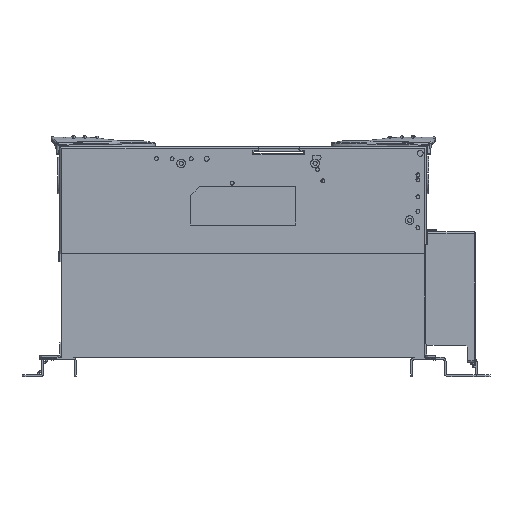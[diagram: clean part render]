
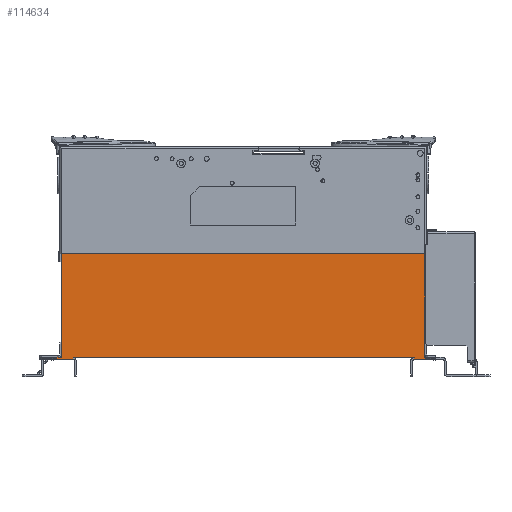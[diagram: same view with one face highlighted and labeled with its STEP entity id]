
A CAD part, left-side view. The second image highlights one B-rep face of the part: STEP entity #114634.
In plain terms, the highlighted planar face has unit normal (-1, 0, 0).
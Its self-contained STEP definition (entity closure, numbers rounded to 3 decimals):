
#28638=DIRECTION('',(0.,1.,0.));
#28639=VECTOR('',#28638,17.2);
#28640=CARTESIAN_POINT('',(-60.,177.8,-62.));
#28641=LINE('',#28640,#28639);
#28642=DIRECTION('',(0.,0.,1.));
#28643=VECTOR('',#28642,2.);
#28644=CARTESIAN_POINT('',(-60.,195.,-62.));
#28645=LINE('',#28644,#28643);
#28646=DIRECTION('',(0.,-1.,0.));
#28647=VECTOR('',#28646,5.);
#28648=CARTESIAN_POINT('',(-60.,195.,-60.));
#28649=LINE('',#28648,#28647);
#28650=DIRECTION('',(0.,0.,1.));
#28651=VECTOR('',#28650,108.5);
#28652=CARTESIAN_POINT('',(-60.,190.,-60.));
#28653=LINE('',#28652,#28651);
#28654=DIRECTION('',(0.,-1.,0.));
#28655=VECTOR('',#28654,380.);
#28656=CARTESIAN_POINT('',(-60.,190.,48.5));
#28657=LINE('',#28656,#28655);
#28658=DIRECTION('',(0.,0.,-1.));
#28659=VECTOR('',#28658,108.5);
#28660=CARTESIAN_POINT('',(-60.,-190.,48.5));
#28661=LINE('',#28660,#28659);
#28662=DIRECTION('',(0.,-1.,0.));
#28663=VECTOR('',#28662,0.75);
#28664=CARTESIAN_POINT('',(-60.,-190.,-60.));
#28665=LINE('',#28664,#28663);
#28666=DIRECTION('',(0.,0.,-1.));
#28667=VECTOR('',#28666,2.);
#28668=CARTESIAN_POINT('',(-60.,-190.75,-60.));
#28669=LINE('',#28668,#28667);
#28670=DIRECTION('',(0.,1.,0.));
#28671=VECTOR('',#28670,11.75);
#28672=CARTESIAN_POINT('',(-60.,-190.75,-62.));
#28673=LINE('',#28672,#28671);
#28674=DIRECTION('',(0.,0.,1.));
#28675=VECTOR('',#28674,2.);
#28676=CARTESIAN_POINT('',(-60.,-179.,-62.));
#28677=LINE('',#28676,#28675);
#28682=DIRECTION('',(0.,-1.,0.));
#28683=VECTOR('',#28682,356.8);
#28684=CARTESIAN_POINT('',(-60.,177.8,-60.));
#28685=LINE('',#28684,#28683);
#28756=DIRECTION('',(0.,0.,1.));
#28757=VECTOR('',#28756,2.);
#28758=CARTESIAN_POINT('',(-60.,177.8,-62.));
#28759=LINE('',#28758,#28757);
#63150=CARTESIAN_POINT('',(-60.,-179.,-62.));
#63151=VERTEX_POINT('',#63150);
#63246=CARTESIAN_POINT('',(-60.,-190.75,-62.));
#63247=VERTEX_POINT('',#63246);
#63271=CARTESIAN_POINT('',(-60.,-190.75,-60.));
#63273=VERTEX_POINT('',#63271);
#65464=CARTESIAN_POINT('',(-60.,177.8,-62.));
#65465=CARTESIAN_POINT('',(-60.,195.,-62.));
#65466=VERTEX_POINT('',#65464);
#65467=VERTEX_POINT('',#65465);
#65696=CARTESIAN_POINT('',(-60.,195.,-60.));
#65697=VERTEX_POINT('',#65696);
#66414=CARTESIAN_POINT('',(-60.,190.,48.5));
#66416=VERTEX_POINT('',#66414);
#66446=CARTESIAN_POINT('',(-60.,-190.,48.5));
#66447=VERTEX_POINT('',#66446);
#67391=CARTESIAN_POINT('',(-60.,-190.,-60.));
#67393=VERTEX_POINT('',#67391);
#67395=CARTESIAN_POINT('',(-60.,-179.,-60.));
#67397=VERTEX_POINT('',#67395);
#67523=CARTESIAN_POINT('',(-60.,190.,-60.));
#67525=VERTEX_POINT('',#67523);
#67528=CARTESIAN_POINT('',(-60.,177.8,-60.));
#67530=VERTEX_POINT('',#67528);
#114612=CARTESIAN_POINT('',(-60.,0.,-5.75));
#114613=DIRECTION('',(1.,0.,0.));
#114614=DIRECTION('',(0.,0.,1.));
#114615=AXIS2_PLACEMENT_3D('',#114612,#114613,#114614);
#114616=PLANE('',#114615);
#114618=ORIENTED_EDGE('',*,*,#114617,.F.);
#114620=ORIENTED_EDGE('',*,*,#114619,.F.);
#114621=ORIENTED_EDGE('',*,*,#111746,.T.);
#114622=ORIENTED_EDGE('',*,*,#114605,.T.);
#114623=ORIENTED_EDGE('',*,*,#111511,.T.);
#114624=ORIENTED_EDGE('',*,*,#73918,.T.);
#114625=ORIENTED_EDGE('',*,*,#96070,.T.);
#114626=ORIENTED_EDGE('',*,*,#74515,.T.);
#114627=ORIENTED_EDGE('',*,*,#111343,.T.);
#114628=ORIENTED_EDGE('',*,*,#110665,.T.);
#114629=ORIENTED_EDGE('',*,*,#110566,.T.);
#114631=ORIENTED_EDGE('',*,*,#114630,.T.);
#114632=EDGE_LOOP('',(#114618,#114620,#114621,#114622,#114623,#114624,#114625,
#114626,#114627,#114628,#114629,#114631));
#114633=FACE_OUTER_BOUND('',#114632,.F.);
#73918=EDGE_CURVE('',#67525,#66416,#28653,.T.);
#74515=EDGE_CURVE('',#66447,#67393,#28661,.T.);
#96070=EDGE_CURVE('',#66416,#66447,#28657,.T.);
#110566=EDGE_CURVE('',#63247,#63151,#28673,.T.);
#110665=EDGE_CURVE('',#63273,#63247,#28669,.T.);
#111343=EDGE_CURVE('',#67393,#63273,#28665,.T.);
#111511=EDGE_CURVE('',#65697,#67525,#28649,.T.);
#111746=EDGE_CURVE('',#65466,#65467,#28641,.T.);
#114605=EDGE_CURVE('',#65467,#65697,#28645,.T.);
#114617=EDGE_CURVE('',#67530,#67397,#28685,.T.);
#114619=EDGE_CURVE('',#65466,#67530,#28759,.T.);
#114630=EDGE_CURVE('',#63151,#67397,#28677,.T.);
#114634=ADVANCED_FACE('',(#114633),#114616,.F.);
